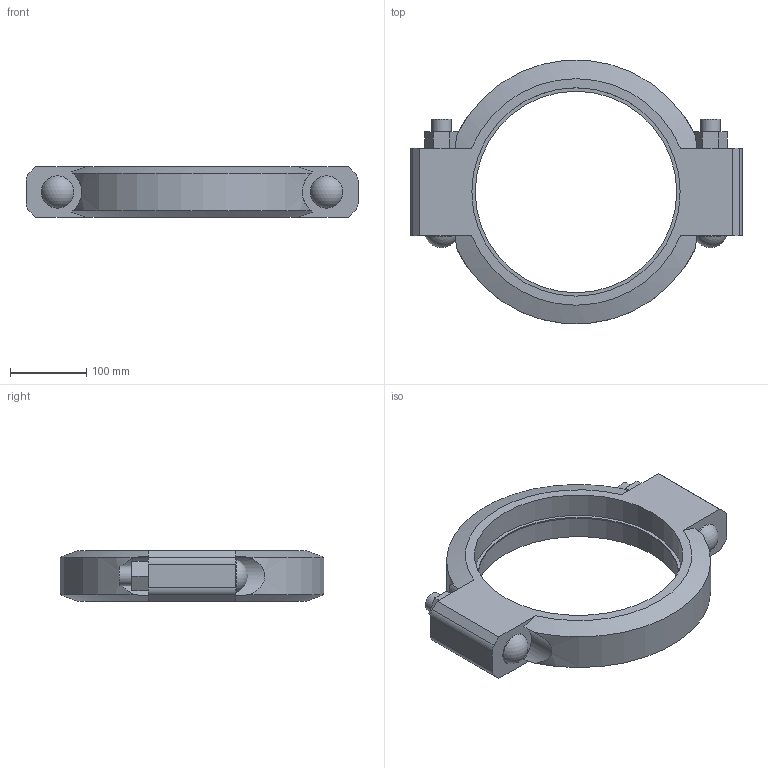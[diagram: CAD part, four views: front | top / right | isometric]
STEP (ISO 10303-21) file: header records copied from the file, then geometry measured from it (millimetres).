
FILE_DESCRIPTION(/* description */ ('Victaulic Standard Flexible Coupling Style 77','CAx-IF Rec.Pracs.---Representation and Presentation of Product Manufacturing Information (PMI)---4.0---2014-10-13'),/* implementation_level */ '2;1');
FILE_NAME(/* name */ 'C:\Users\Vjadhav\Desktop\CAD for Inventor\1\Coupling bolt thickness\77\Victaulic_IPS_Coupling Flexible_Style 77 (OGS)\Victaulic_IPS_Coupling Flexible_Style 77 (OGS)_10 (250).stp',/* time_stamp */ '2022-03-24T18:20:39+06:00',/* author */ ('CONSTRUCTION PIPING SERVICES'),/* organization */ ('Victaulic'),/* preprocessor_version */ 'ST-DEVELOPER v17.2',/* originating_system */ 'Autodesk Inventor 2019',/* authorisation */ '');
FILE_SCHEMA (('AP242_MANAGED_MODEL_BASED_3D_ENGINEERING_MIM_LF { 1 0 10303 442 1 1 4 }'));
Length unit declared in the file: inch
Products named in the file (1): 077-10.0
Bounding box: 435.1 x 344.9 x 66.8 mm (x, y, z)
Volume: 2922454.1 mm3; surface area: 279716 mm2
Topology: 1 solids, 3 shells, 61 faces, 142 edges, 95 vertices
Faces by surface type: plane 34, cylinder 21, cone 4, sphere 2
Full cylindrical faces by diameter (mm): 25.4 x4, 27.432 x2, 42.342 x2, 264.16 x1, 273.05 x2
Entity records: 2099 total; most frequent: CARTESIAN_POINT 488, DIRECTION 315, ORIENTED_EDGE 284, EDGE_CURVE 142, AXIS2_PLACEMENT_3D 118, VERTEX_POINT 95, LINE 79, VECTOR 79
